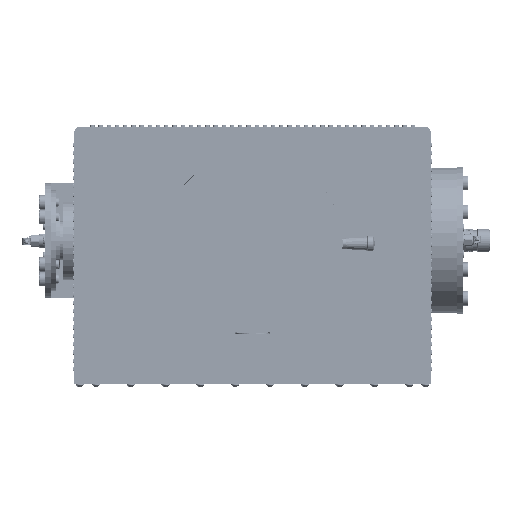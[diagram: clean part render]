
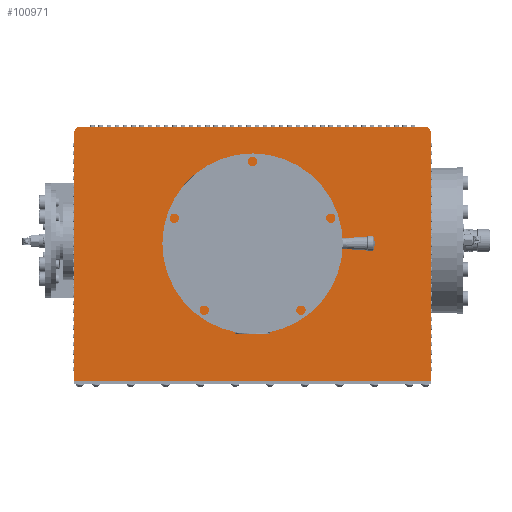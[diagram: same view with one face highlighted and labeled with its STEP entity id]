
A CAD part, front view. The second image highlights one B-rep face of the part: STEP entity #100971.
In plain terms, the highlighted planar face has unit normal (0, -1, 0).
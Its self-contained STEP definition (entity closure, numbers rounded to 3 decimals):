
#10457 = VERTEX_POINT ( 'NONE', #183953 ) ;
#11242 = CARTESIAN_POINT ( 'NONE',  ( -123.5, 0., 0. ) ) ;
#11670 = CARTESIAN_POINT ( 'NONE',  ( 123.5, 0., 99. ) ) ;
#14077 = CARTESIAN_POINT ( 'NONE',  ( -119.5, 0., 99. ) ) ;
#19903 = AXIS2_PLACEMENT_3D ( 'NONE', #14077, #55455, #312551 ) ;
#27592 = CARTESIAN_POINT ( 'NONE',  ( 0., 0., 103. ) ) ;
#31590 = CARTESIAN_POINT ( 'NONE',  ( 123.5, 0., -73.5 ) ) ;
#43940 = EDGE_CURVE ( 'NONE', #304583, #152067, #316566, .T. ) ;
#46846 = DIRECTION ( 'NONE',  ( 1., 0., 0. ) ) ;
#55455 = DIRECTION ( 'NONE',  ( 0., 1., 0. ) ) ;
#60793 = VERTEX_POINT ( 'NONE', #256372 ) ;
#66571 = CIRCLE ( 'NONE', #19903, 4. ) ;
#70548 = LINE ( 'NONE', #364204, #453798 ) ;
#76334 = DIRECTION ( 'NONE',  ( 0., -1., 0. ) ) ;
#82013 = EDGE_LOOP ( 'NONE', ( #449627, #468975, #110913, #291410, #470304, #227995 ) ) ;
#90315 = VERTEX_POINT ( 'NONE', #393775 ) ;
#91748 = LINE ( 'NONE', #11242, #433568 ) ;
#93754 = DIRECTION ( 'NONE',  ( 0., -1., 0. ) ) ;
#96132 = DIRECTION ( 'NONE',  ( 0., 0., -1. ) ) ;
#100971 = ADVANCED_FACE ( 'NONE', ( #364127, #439932 ), #104758, .F. ) ;
#104758 = PLANE ( 'NONE',  #329731 ) ;
#109750 = VECTOR ( 'NONE', #381590, 1000. ) ;
#110913 = ORIENTED_EDGE ( 'NONE', *, *, #438873, .F. ) ;
#115852 = EDGE_CURVE ( 'NONE', #60793, #90315, #301925, .T. ) ;
#140161 = VECTOR ( 'NONE', #401754, 1000. ) ;
#148179 = CARTESIAN_POINT ( 'NONE',  ( -123.5, 0., -73.5 ) ) ;
#152067 = VERTEX_POINT ( 'NONE', #164087 ) ;
#154624 = CARTESIAN_POINT ( 'NONE',  ( 119.5, 0., 99. ) ) ;
#156044 = DIRECTION ( 'NONE',  ( 0., 1., 0. ) ) ;
#164035 = EDGE_CURVE ( 'NONE', #317112, #305474, #70548, .T. ) ;
#164087 = CARTESIAN_POINT ( 'NONE',  ( 0., 0., -15.5 ) ) ;
#176638 = EDGE_CURVE ( 'NONE', #280768, #60793, #294265, .T. ) ;
#179288 = CARTESIAN_POINT ( 'NONE',  ( -119.5, 0., 103. ) ) ;
#183953 = CARTESIAN_POINT ( 'NONE',  ( -123.5, 0., 99. ) ) ;
#198386 = EDGE_CURVE ( 'NONE', #152067, #304583, #410888, .T. ) ;
#208105 = AXIS2_PLACEMENT_3D ( 'NONE', #445767, #76334, #225643 ) ;
#223930 = AXIS2_PLACEMENT_3D ( 'NONE', #154624, #347691, #46846 ) ;
#225643 = DIRECTION ( 'NONE',  ( 0., 0., -1. ) ) ;
#227995 = ORIENTED_EDGE ( 'NONE', *, *, #416472, .F. ) ;
#234949 = LINE ( 'NONE', #452647, #109750 ) ;
#241169 = DIRECTION ( 'NONE',  ( 0., 0., 1. ) ) ;
#243226 = EDGE_LOOP ( 'NONE', ( #326291, #275912 ) ) ;
#256372 = CARTESIAN_POINT ( 'NONE',  ( 119.5, 0., 103. ) ) ;
#269440 = AXIS2_PLACEMENT_3D ( 'NONE', #311719, #93754, #96132 ) ;
#275912 = ORIENTED_EDGE ( 'NONE', *, *, #43940, .F. ) ;
#280768 = VERTEX_POINT ( 'NONE', #179288 ) ;
#291410 = ORIENTED_EDGE ( 'NONE', *, *, #422310, .F. ) ;
#294265 = LINE ( 'NONE', #27592, #140161 ) ;
#301925 = CIRCLE ( 'NONE', #223930, 4. ) ;
#304583 = VERTEX_POINT ( 'NONE', #327075 ) ;
#305474 = VERTEX_POINT ( 'NONE', #148179 ) ;
#307740 = DIRECTION ( 'NONE',  ( 0., 0., 1. ) ) ;
#311719 = CARTESIAN_POINT ( 'NONE',  ( 0., 0., 22. ) ) ;
#312551 = DIRECTION ( 'NONE',  ( -1., 0., 0. ) ) ;
#316566 = CIRCLE ( 'NONE', #269440, 37.5 ) ;
#317112 = VERTEX_POINT ( 'NONE', #31590 ) ;
#326291 = ORIENTED_EDGE ( 'NONE', *, *, #198386, .F. ) ;
#327075 = CARTESIAN_POINT ( 'NONE',  ( 0., 0., 59.5 ) ) ;
#329731 = AXIS2_PLACEMENT_3D ( 'NONE', #11670, #156044, #307740 ) ;
#347691 = DIRECTION ( 'NONE',  ( 0., 1., 0. ) ) ;
#364127 = FACE_BOUND ( 'NONE', #243226, .T. ) ;
#364204 = CARTESIAN_POINT ( 'NONE',  ( 123.5, 0., -73.5 ) ) ;
#381590 = DIRECTION ( 'NONE',  ( 0., 0., -1. ) ) ;
#393775 = CARTESIAN_POINT ( 'NONE',  ( 123.5, 0., 99. ) ) ;
#401754 = DIRECTION ( 'NONE',  ( 1., 0., 0. ) ) ;
#410888 = CIRCLE ( 'NONE', #208105, 37.5 ) ;
#416472 = EDGE_CURVE ( 'NONE', #90315, #317112, #234949, .T. ) ;
#422310 = EDGE_CURVE ( 'NONE', #305474, #10457, #91748, .T. ) ;
#433568 = VECTOR ( 'NONE', #241169, 1000. ) ;
#438873 = EDGE_CURVE ( 'NONE', #10457, #280768, #66571, .T. ) ;
#439932 = FACE_OUTER_BOUND ( 'NONE', #82013, .T. ) ;
#444836 = DIRECTION ( 'NONE',  ( -1., 0., 0. ) ) ;
#445767 = CARTESIAN_POINT ( 'NONE',  ( 0., 0., 22. ) ) ;
#449627 = ORIENTED_EDGE ( 'NONE', *, *, #115852, .F. ) ;
#452647 = CARTESIAN_POINT ( 'NONE',  ( 123.5, 0., 0. ) ) ;
#453798 = VECTOR ( 'NONE', #444836, 1000. ) ;
#468975 = ORIENTED_EDGE ( 'NONE', *, *, #176638, .F. ) ;
#470304 = ORIENTED_EDGE ( 'NONE', *, *, #164035, .F. ) ;
